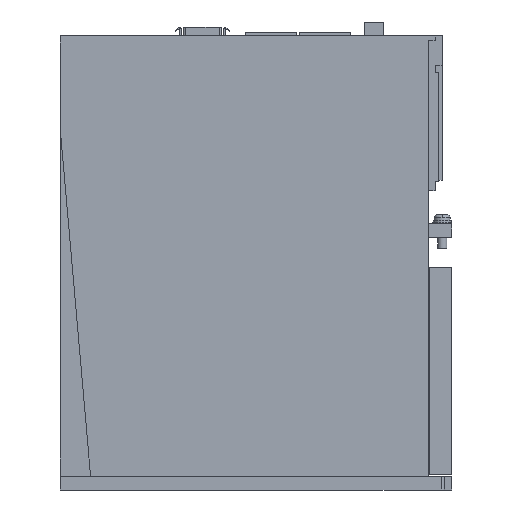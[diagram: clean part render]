
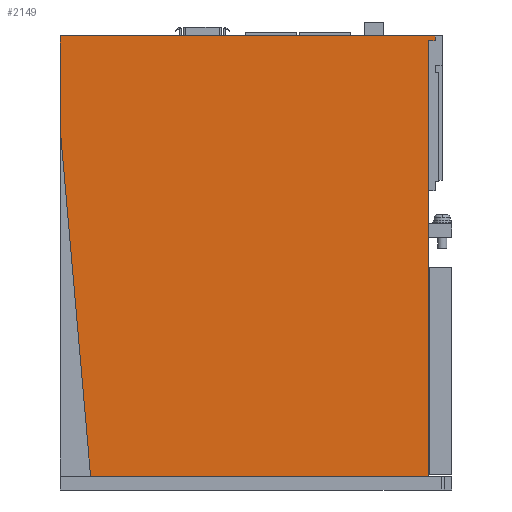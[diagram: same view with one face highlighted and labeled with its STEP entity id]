
A CAD part, left-side view. The second image highlights one B-rep face of the part: STEP entity #2149.
In plain terms, the highlighted planar face has unit normal (-1, 0, 0).
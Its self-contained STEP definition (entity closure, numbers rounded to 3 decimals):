
#378 = VERTEX_POINT ( 'NONE', #5228 ) ;
#379 = VERTEX_POINT ( 'NONE', #5229 ) ;
#380 = EDGE_CURVE ( 'NONE', #379, #378, #5297, .T. ) ;
#399 = VERTEX_POINT ( 'NONE', #5268 ) ;
#400 = EDGE_CURVE ( 'NONE', #378, #407, #5267, .T. ) ;
#407 = VERTEX_POINT ( 'NONE', #5322 ) ;
#409 = EDGE_CURVE ( 'NONE', #407, #399, #5321, .T. ) ;
#411 = EDGE_CURVE ( 'NONE', #399, #432, #5317, .T. ) ;
#432 = VERTEX_POINT ( 'NONE', #5298 ) ;
#444 = EDGE_CURVE ( 'NONE', #432, #446, #5357, .T. ) ;
#446 = VERTEX_POINT ( 'NONE', #5353 ) ;
#455 = VERTEX_POINT ( 'NONE', #5338 ) ;
#464 = EDGE_CURVE ( 'NONE', #446, #455, #5337, .T. ) ;
#2100 = EDGE_CURVE ( 'NONE', #455, #379, #8010, .T. ) ;
#2116 = ORIENTED_EDGE ( 'NONE', *, *, #400, .T. ) ;
#2118 = ORIENTED_EDGE ( 'NONE', *, *, #409, .T. ) ;
#2122 = ORIENTED_EDGE ( 'NONE', *, *, #411, .T. ) ;
#2126 = ORIENTED_EDGE ( 'NONE', *, *, #380, .T. ) ;
#2127 = ORIENTED_EDGE ( 'NONE', *, *, #2100, .T. ) ;
#2140 = EDGE_LOOP ( 'NONE', ( #2141, #2127, #2126, #2116, #2118, #2122, #2169 ) ) ;
#2141 = ORIENTED_EDGE ( 'NONE', *, *, #464, .T. ) ;
#2149 = ADVANCED_FACE ( 'NONE', ( #8082 ), #8081, .T. ) ;
#2169 = ORIENTED_EDGE ( 'NONE', *, *, #444, .T. ) ;
#5228 = CARTESIAN_POINT ( 'NONE',  ( -42.5, 84., 148. ) ) ;
#5229 = CARTESIAN_POINT ( 'NONE',  ( -42.5, 84., 189. ) ) ;
#5264 = DIRECTION ( 'NONE',  ( 0., -0.087, -0.996 ) ) ;
#5265 = VECTOR ( 'NONE', #5264, 1000. ) ;
#5266 = CARTESIAN_POINT ( 'NONE',  ( -42.5, 84., 148. ) ) ;
#5267 = LINE ( 'NONE', #5266, #5265 ) ;
#5268 = CARTESIAN_POINT ( 'NONE',  ( -42.5, -74., 0. ) ) ;
#5294 = DIRECTION ( 'NONE',  ( 0., 0., -1. ) ) ;
#5295 = VECTOR ( 'NONE', #5294, 1000. ) ;
#5296 = CARTESIAN_POINT ( 'NONE',  ( -42.5, 84., 0. ) ) ;
#5297 = LINE ( 'NONE', #5296, #5295 ) ;
#5298 = CARTESIAN_POINT ( 'NONE',  ( -42.5, -74., 187. ) ) ;
#5314 = DIRECTION ( 'NONE',  ( 0., 0., 1. ) ) ;
#5315 = VECTOR ( 'NONE', #5314, 1000. ) ;
#5316 = CARTESIAN_POINT ( 'NONE',  ( -42.5, -74., 0. ) ) ;
#5317 = LINE ( 'NONE', #5316, #5315 ) ;
#5318 = DIRECTION ( 'NONE',  ( 0., -1., 0. ) ) ;
#5319 = VECTOR ( 'NONE', #5318, 1000. ) ;
#5320 = CARTESIAN_POINT ( 'NONE',  ( -42.5, 84., 0. ) ) ;
#5321 = LINE ( 'NONE', #5320, #5319 ) ;
#5322 = CARTESIAN_POINT ( 'NONE',  ( -42.5, 71.052, 0. ) ) ;
#5334 = DIRECTION ( 'NONE',  ( 0., 0., 1. ) ) ;
#5335 = VECTOR ( 'NONE', #5334, 1000. ) ;
#5336 = CARTESIAN_POINT ( 'NONE',  ( -42.5, -77., 0. ) ) ;
#5337 = LINE ( 'NONE', #5336, #5335 ) ;
#5338 = CARTESIAN_POINT ( 'NONE',  ( -42.5, -77., 189. ) ) ;
#5353 = CARTESIAN_POINT ( 'NONE',  ( -42.5, -77., 187. ) ) ;
#5354 = DIRECTION ( 'NONE',  ( 0., -1., 0. ) ) ;
#5355 = VECTOR ( 'NONE', #5354, 1000. ) ;
#5356 = CARTESIAN_POINT ( 'NONE',  ( -42.5, 84., 187. ) ) ;
#5357 = LINE ( 'NONE', #5356, #5355 ) ;
#8007 = DIRECTION ( 'NONE',  ( 0., 1., 0. ) ) ;
#8008 = VECTOR ( 'NONE', #8007, 1000. ) ;
#8009 = CARTESIAN_POINT ( 'NONE',  ( -42.5, 84., 189. ) ) ;
#8010 = LINE ( 'NONE', #8009, #8008 ) ;
#8077 = DIRECTION ( 'NONE',  ( 0., 0., 1. ) ) ;
#8078 = DIRECTION ( 'NONE',  ( -1., 0., 0. ) ) ;
#8079 = CARTESIAN_POINT ( 'NONE',  ( -42.5, 84., 0. ) ) ;
#8080 = AXIS2_PLACEMENT_3D ( 'NONE', #8079, #8078, #8077 ) ;
#8081 = PLANE ( 'NONE',  #8080 ) ;
#8082 = FACE_OUTER_BOUND ( 'NONE', #2140, .T. ) ;
